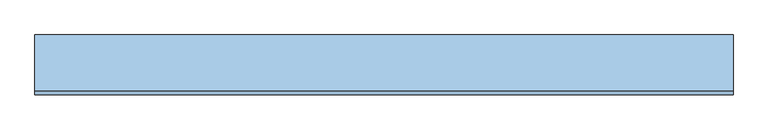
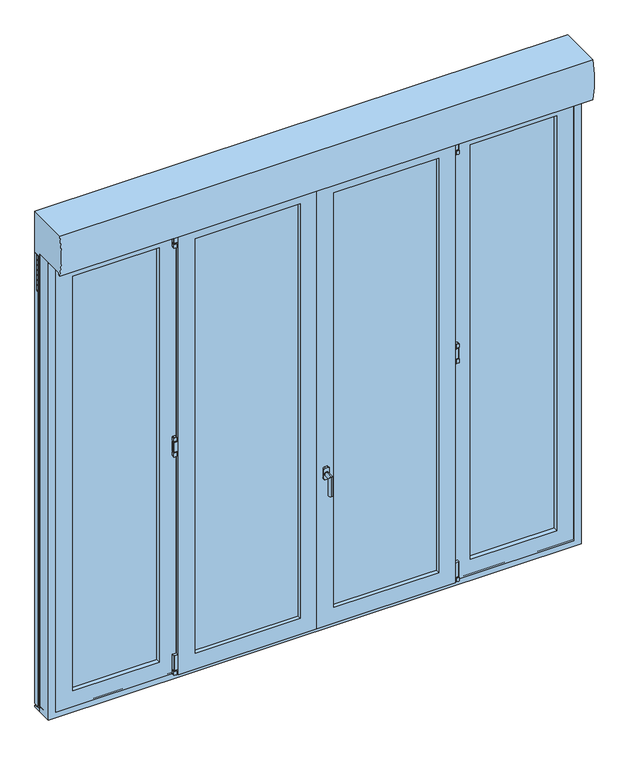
"""IFC4 building model written with IfcOpenShell, lengths in millimetres: window geometry, 26. PF2 + 2 Fixes à G et à D ENR PVC-ALU : 260X236 (LXH) cm."""

from ifc_helpers import new_model, si_unit, point, frame, frame_2d, origin, place, context, project, spatial, polyline, circle_curve, ellipse_curve, trimmed, segment, composite_curve, outline, extrude, faceted_brep, source, transform, mapped, element, save
from ifc_brep_helpers import plane_surface, cylinder_surface, advanced_brep


def window_d9ff698f(model_context):
    return source(origin(), model_context, "Body", "SolidModel", [
        extrude(outline(composite_curve([segment(polyline([(1233.7215382, -681.004), (1251.7538628, -681.004)]), True, "CONTINUOUS"), segment(trimmed(circle_curve(frame_2d((1251.7538628, -682.9716754)), 1.9676754), [point((1251.7538628, -681.004))], [point((1253.7215382, -682.9716754))], False, "CARTESIAN"), True, "CONTINUOUS"), segment(polyline([(1253.7215382, -682.9716754), (1253.7215382, -694.0103831)]), True, "CONTINUOUS"), segment(trimmed(circle_curve(frame_2d((1251.7279213, -694.0103831)), 1.9936169), [point((1253.7215382, -694.0103831))], [point((1251.7279213, -696.004))], False, "CARTESIAN"), True, "CONTINUOUS"), segment(polyline([(1251.7279213, -696.004), (1233.7215382, -696.004), (1233.7215382, -681.004)]), True, "CONTINUOUS")], self_intersect=False)), frame((0.0, -115.0338923, 0.0), z_axis=(0.0, 1.0, 0.0), x_axis=(0.0, 0.0, 1.0)), (0.0, 0.0, 1.0), 15.0),
        extrude(outline(composite_curve([segment(trimmed(circle_curve(frame_2d((-688.7245562, -107.5434807)), 5.0), [point((-683.7245562, -107.5434807))], [point((-693.7245562, -107.5434807))], False, "CARTESIAN"), True, "CONTINUOUS"), segment(trimmed(circle_curve(frame_2d((-688.7245562, -107.5434807)), 5.0), [point((-693.7245562, -107.5434807))], [point((-683.7245562, -107.5434807))], False, "CARTESIAN"), True, "CONTINUOUS")], self_intersect=False)), frame((0.0, 0.0, 1173.7215382), z_axis=(0.0, 0.0, 1.0), x_axis=(1.0, 0.0, 0.0)), (0.0, 0.0, 1.0), 60.0),
        extrude(outline(composite_curve([segment(polyline([(-676.004, -100.0434807), (-676.004, -115.0434807), (-693.9858225, -115.0434807)]), True, "CONTINUOUS"), segment(trimmed(circle_curve(frame_2d((-693.9858225, -113.0253033)), 2.0181775), [point((-693.9858225, -115.0434807))], [point((-696.004, -113.0253033))], False, "CARTESIAN"), True, "CONTINUOUS"), segment(polyline([(-696.004, -113.0253033), (-696.004, -102.001657)]), True, "CONTINUOUS"), segment(trimmed(circle_curve(frame_2d((-694.0458237, -102.001657)), 1.9581763), [point((-696.004, -102.001657))], [point((-694.0458237, -100.0434807))], False, "CARTESIAN"), True, "CONTINUOUS"), segment(polyline([(-694.0458237, -100.0434807), (-676.004, -100.0434807)]), True, "CONTINUOUS")], self_intersect=False)), frame((0.0, 0.0, 1179.448), z_axis=(0.0, 0.0, 1.0), x_axis=(1.0, 0.0, 0.0)), (0.0, 0.0, 1.0), 50.0),
        extrude(outline(composite_curve([segment(polyline([(1174.448, -696.2245562), (1156.0982054, -696.2245562)]), True, "CONTINUOUS"), segment(trimmed(circle_curve(frame_2d((1156.4216694, -694.2508867)), 2.0), [point((1156.0982054, -696.2245562))], [point((1154.448, -694.5743507))], False, "CARTESIAN"), True, "CONTINUOUS"), segment(polyline([(1154.448, -694.5743507), (1154.448, -683.2338059)]), True, "CONTINUOUS"), segment(trimmed(circle_curve(frame_2d((1156.4572498, -683.2338059)), 2.0092498), [point((1154.448, -683.2338059))], [point((1156.4572498, -681.2245562))], False, "CARTESIAN"), True, "CONTINUOUS"), segment(polyline([(1156.4572498, -681.2245562), (1174.448, -681.2245562), (1174.448, -696.2245562)]), True, "CONTINUOUS")], self_intersect=False)), frame((0.0, -115.0338923, 0.0), z_axis=(0.0, 1.0, 0.0), x_axis=(0.0, 0.0, 1.0)), (0.0, 0.0, 1.0), 15.0),
        extrude(outline(composite_curve([segment(polyline([(1233.7215382, 680.96), (1233.7215382, 695.96), (1251.7279213, 695.96)]), True, "CONTINUOUS"), segment(trimmed(circle_curve(frame_2d((1251.7279213, 693.9663831)), 1.9936169), [point((1251.7279213, 695.96))], [point((1253.7215382, 693.9663831))], False, "CARTESIAN"), True, "CONTINUOUS"), segment(polyline([(1253.7215382, 693.9663831), (1253.7215382, 682.9276754)]), True, "CONTINUOUS"), segment(trimmed(circle_curve(frame_2d((1251.7538628, 682.9276754)), 1.9676754), [point((1253.7215382, 682.9276754))], [point((1251.7538628, 680.96))], False, "CARTESIAN"), True, "CONTINUOUS"), segment(polyline([(1251.7538628, 680.96), (1233.7215382, 680.96)]), True, "CONTINUOUS")], self_intersect=False)), frame((0.0, -115.0338923, 0.0), z_axis=(0.0, 1.0, 0.0), x_axis=(0.0, 0.0, 1.0)), (0.0, 0.0, 1.0), 15.0),
        extrude(outline(composite_curve([segment(trimmed(circle_curve(frame_2d((688.6805562, -107.5434807)), 5.0), [point((683.6805562, -107.5434807))], [point((693.6805562, -107.5434807))], False, "CARTESIAN"), True, "CONTINUOUS"), segment(trimmed(circle_curve(frame_2d((688.6805562, -107.5434807)), 5.0), [point((693.6805562, -107.5434807))], [point((683.6805562, -107.5434807))], False, "CARTESIAN"), True, "CONTINUOUS")], self_intersect=False)), frame((0.0, 0.0, 1173.7215382), z_axis=(0.0, 0.0, 1.0), x_axis=(1.0, 0.0, 0.0)), (0.0, 0.0, 1.0), 60.0),
        extrude(outline(composite_curve([segment(polyline([(675.96, -100.0434807), (694.0018237, -100.0434807)]), True, "CONTINUOUS"), segment(trimmed(circle_curve(frame_2d((694.0018237, -102.001657)), 1.9581763), [point((694.0018237, -100.0434807))], [point((695.96, -102.001657))], False, "CARTESIAN"), True, "CONTINUOUS"), segment(polyline([(695.96, -102.001657), (695.96, -113.0253033)]), True, "CONTINUOUS"), segment(trimmed(circle_curve(frame_2d((693.9418225, -113.0253033)), 2.0181775), [point((695.96, -113.0253033))], [point((693.9418225, -115.0434807))], False, "CARTESIAN"), True, "CONTINUOUS"), segment(polyline([(693.9418225, -115.0434807), (675.96, -115.0434807), (675.96, -100.0434807)]), True, "CONTINUOUS")], self_intersect=False)), frame((0.0, 0.0, 1179.448), z_axis=(0.0, 0.0, 1.0), x_axis=(1.0, 0.0, 0.0)), (0.0, 0.0, 1.0), 50.0),
        extrude(outline(composite_curve([segment(polyline([(1174.448, 696.1805562), (1174.448, 681.1805562), (1156.4572498, 681.1805562)]), True, "CONTINUOUS"), segment(trimmed(circle_curve(frame_2d((1156.4572498, 683.1898059)), 2.0092498), [point((1156.4572498, 681.1805562))], [point((1154.448, 683.1898059))], False, "CARTESIAN"), True, "CONTINUOUS"), segment(polyline([(1154.448, 683.1898059), (1154.448, 694.5303507)]), True, "CONTINUOUS"), segment(trimmed(circle_curve(frame_2d((1156.4216694, 694.2068867)), 2.0), [point((1154.448, 694.5303507))], [point((1156.0982054, 696.1805562))], False, "CARTESIAN"), True, "CONTINUOUS"), segment(polyline([(1156.0982054, 696.1805562), (1174.448, 696.1805562)]), True, "CONTINUOUS")], self_intersect=False)), frame((0.0, -115.0338923, 0.0), z_axis=(0.0, 1.0, 0.0), x_axis=(0.0, 0.0, 1.0)), (0.0, 0.0, 1.0), 15.0),
        extrude(outline(composite_curve([segment(polyline([(2310.8255382, -680.96), (2328.8578628, -680.96)]), True, "CONTINUOUS"), segment(trimmed(circle_curve(frame_2d((2328.8578628, -682.9276754)), 1.9676754), [point((2328.8578628, -680.96))], [point((2330.8255382, -682.9276754))], False, "CARTESIAN"), True, "CONTINUOUS"), segment(polyline([(2330.8255382, -682.9276754), (2330.8255382, -693.9663831)]), True, "CONTINUOUS"), segment(trimmed(circle_curve(frame_2d((2328.8319213, -693.9663831)), 1.9936169), [point((2330.8255382, -693.9663831))], [point((2328.8319213, -695.96))], False, "CARTESIAN"), True, "CONTINUOUS"), segment(polyline([(2328.8319213, -695.96), (2310.8255382, -695.96), (2310.8255382, -680.96)]), True, "CONTINUOUS")], self_intersect=False)), frame((0.0, -115.0338923, 0.0), z_axis=(0.0, 1.0, 0.0), x_axis=(0.0, 0.0, 1.0)), (0.0, 0.0, 1.0), 15.0),
        extrude(outline(composite_curve([segment(trimmed(circle_curve(frame_2d((-688.6805562, -107.5434807)), 5.0), [point((-683.6805562, -107.5434807))], [point((-693.6805562, -107.5434807))], False, "CARTESIAN"), True, "CONTINUOUS"), segment(trimmed(circle_curve(frame_2d((-688.6805562, -107.5434807)), 5.0), [point((-693.6805562, -107.5434807))], [point((-683.6805562, -107.5434807))], False, "CARTESIAN"), True, "CONTINUOUS")], self_intersect=False)), frame((0.0, 0.0, 2250.8255382), z_axis=(0.0, 0.0, 1.0), x_axis=(1.0, 0.0, 0.0)), (0.0, 0.0, 1.0), 60.0),
        extrude(outline(composite_curve([segment(polyline([(-675.96, -100.0434807), (-675.96, -115.0434807), (-693.9418225, -115.0434807)]), True, "CONTINUOUS"), segment(trimmed(circle_curve(frame_2d((-693.9418225, -113.0253033)), 2.0181775), [point((-693.9418225, -115.0434807))], [point((-695.96, -113.0253033))], False, "CARTESIAN"), True, "CONTINUOUS"), segment(polyline([(-695.96, -113.0253033), (-695.96, -102.001657)]), True, "CONTINUOUS"), segment(trimmed(circle_curve(frame_2d((-694.0018237, -102.001657)), 1.9581763), [point((-695.96, -102.001657))], [point((-694.0018237, -100.0434807))], False, "CARTESIAN"), True, "CONTINUOUS"), segment(polyline([(-694.0018237, -100.0434807), (-675.96, -100.0434807)]), True, "CONTINUOUS")], self_intersect=False)), frame((0.0, 0.0, 2256.552), z_axis=(0.0, 0.0, 1.0), x_axis=(1.0, 0.0, 0.0)), (0.0, 0.0, 1.0), 50.0),
        extrude(outline(composite_curve([segment(polyline([(2251.552, -696.1805562), (2233.2022054, -696.1805562)]), True, "CONTINUOUS"), segment(trimmed(circle_curve(frame_2d((2233.5256694, -694.2068867)), 2.0), [point((2233.2022054, -696.1805562))], [point((2231.552, -694.5303507))], False, "CARTESIAN"), True, "CONTINUOUS"), segment(polyline([(2231.552, -694.5303507), (2231.552, -683.1898059)]), True, "CONTINUOUS"), segment(trimmed(circle_curve(frame_2d((2233.5612498, -683.1898059)), 2.0092498), [point((2231.552, -683.1898059))], [point((2233.5612498, -681.1805562))], False, "CARTESIAN"), True, "CONTINUOUS"), segment(polyline([(2233.5612498, -681.1805562), (2251.552, -681.1805562), (2251.552, -696.1805562)]), True, "CONTINUOUS")], self_intersect=False)), frame((0.0, -115.0338923, 0.0), z_axis=(0.0, 1.0, 0.0), x_axis=(0.0, 0.0, 1.0)), (0.0, 0.0, 1.0), 15.0),
        extrude(outline(composite_curve([segment(trimmed(circle_curve(frame_2d((-688.5702781, -107.5434807)), 5.0), [point((-683.5702781, -107.5434807))], [point((-693.5702781, -107.5434807))], False, "CARTESIAN"), True, "CONTINUOUS"), segment(trimmed(circle_curve(frame_2d((-688.5702781, -107.5434807)), 5.0), [point((-693.5702781, -107.5434807))], [point((-683.5702781, -107.5434807))], False, "CARTESIAN"), True, "CONTINUOUS")], self_intersect=False)), frame((0.0, 0.0, 48.448), z_axis=(0.0, 0.0, 1.0), x_axis=(1.0, 0.0, 0.0)), (0.0, 0.0, 1.0), 5.0),
        extrude(outline(composite_curve([segment(polyline([(48.448, -696.0702781), (30.0982054, -696.0702781)]), True, "CONTINUOUS"), segment(trimmed(circle_curve(frame_2d((30.4216694, -694.0966086)), 2.0), [point((30.0982054, -696.0702781))], [point((28.448, -694.4200727))], False, "CARTESIAN"), True, "CONTINUOUS"), segment(polyline([(28.448, -694.4200727), (28.448, -683.0795279)]), True, "CONTINUOUS"), segment(trimmed(circle_curve(frame_2d((30.4572498, -683.0795279)), 2.0092498), [point((28.448, -683.0795279))], [point((30.4572498, -681.0702781))], False, "CARTESIAN"), True, "CONTINUOUS"), segment(polyline([(30.4572498, -681.0702781), (48.448, -681.0702781), (48.448, -696.0702781)]), True, "CONTINUOUS")], self_intersect=False)), frame((0.0, -115.0338923, 0.0), z_axis=(0.0, 1.0, 0.0), x_axis=(0.0, 0.0, 1.0)), (0.0, 0.0, 1.0), 15.0),
        extrude(outline(composite_curve([segment(polyline([(-675.8497219, -100.0434807), (-675.8497219, -115.0434807), (-693.8315445, -115.0434807)]), True, "CONTINUOUS"), segment(trimmed(circle_curve(frame_2d((-693.8315445, -113.0253033)), 2.0181775), [point((-693.8315445, -115.0434807))], [point((-695.8497219, -113.0253033))], False, "CARTESIAN"), True, "CONTINUOUS"), segment(polyline([(-695.8497219, -113.0253033), (-695.8497219, -102.001657)]), True, "CONTINUOUS"), segment(trimmed(circle_curve(frame_2d((-693.8915456, -102.001657)), 1.9581763), [point((-695.8497219, -102.001657))], [point((-693.8915456, -100.0434807))], False, "CARTESIAN"), True, "CONTINUOUS"), segment(polyline([(-693.8915456, -100.0434807), (-675.8497219, -100.0434807)]), True, "CONTINUOUS")], self_intersect=False)), frame((0.0, 0.0, 53.448), z_axis=(0.0, 0.0, 1.0), x_axis=(1.0, 0.0, 0.0)), (0.0, 0.0, 1.0), 75.0),
        extrude(outline(composite_curve([segment(polyline([(2310.8255382, 680.96), (2310.8255382, 695.96), (2328.8319213, 695.96)]), True, "CONTINUOUS"), segment(trimmed(circle_curve(frame_2d((2328.8319213, 693.9663831)), 1.9936169), [point((2328.8319213, 695.96))], [point((2330.8255382, 693.9663831))], False, "CARTESIAN"), True, "CONTINUOUS"), segment(polyline([(2330.8255382, 693.9663831), (2330.8255382, 682.9276754)]), True, "CONTINUOUS"), segment(trimmed(circle_curve(frame_2d((2328.8578628, 682.9276754)), 1.9676754), [point((2330.8255382, 682.9276754))], [point((2328.8578628, 680.96))], False, "CARTESIAN"), True, "CONTINUOUS"), segment(polyline([(2328.8578628, 680.96), (2310.8255382, 680.96)]), True, "CONTINUOUS")], self_intersect=False)), frame((0.0, -115.0338923, 0.0), z_axis=(0.0, 1.0, 0.0), x_axis=(0.0, 0.0, 1.0)), (0.0, 0.0, 1.0), 15.0),
        extrude(outline(composite_curve([segment(trimmed(circle_curve(frame_2d((688.6805562, -107.5434807)), 5.0), [point((683.6805562, -107.5434807))], [point((693.6805562, -107.5434807))], False, "CARTESIAN"), True, "CONTINUOUS"), segment(trimmed(circle_curve(frame_2d((688.6805562, -107.5434807)), 5.0), [point((693.6805562, -107.5434807))], [point((683.6805562, -107.5434807))], False, "CARTESIAN"), True, "CONTINUOUS")], self_intersect=False)), frame((0.0, 0.0, 2250.8255382), z_axis=(0.0, 0.0, 1.0), x_axis=(1.0, 0.0, 0.0)), (0.0, 0.0, 1.0), 60.0),
        extrude(outline(composite_curve([segment(polyline([(675.96, -100.0434807), (694.0018237, -100.0434807)]), True, "CONTINUOUS"), segment(trimmed(circle_curve(frame_2d((694.0018237, -102.001657)), 1.9581763), [point((694.0018237, -100.0434807))], [point((695.96, -102.001657))], False, "CARTESIAN"), True, "CONTINUOUS"), segment(polyline([(695.96, -102.001657), (695.96, -113.0253033)]), True, "CONTINUOUS"), segment(trimmed(circle_curve(frame_2d((693.9418225, -113.0253033)), 2.0181775), [point((695.96, -113.0253033))], [point((693.9418225, -115.0434807))], False, "CARTESIAN"), True, "CONTINUOUS"), segment(polyline([(693.9418225, -115.0434807), (675.96, -115.0434807), (675.96, -100.0434807)]), True, "CONTINUOUS")], self_intersect=False)), frame((0.0, 0.0, 2256.552), z_axis=(0.0, 0.0, 1.0), x_axis=(1.0, 0.0, 0.0)), (0.0, 0.0, 1.0), 50.0),
        extrude(outline(composite_curve([segment(polyline([(2251.552, 696.1805562), (2251.552, 681.1805562), (2233.5612498, 681.1805562)]), True, "CONTINUOUS"), segment(trimmed(circle_curve(frame_2d((2233.5612498, 683.1898059)), 2.0092498), [point((2233.5612498, 681.1805562))], [point((2231.552, 683.1898059))], False, "CARTESIAN"), True, "CONTINUOUS"), segment(polyline([(2231.552, 683.1898059), (2231.552, 694.5303507)]), True, "CONTINUOUS"), segment(trimmed(circle_curve(frame_2d((2233.5256694, 694.2068867)), 2.0), [point((2231.552, 694.5303507))], [point((2233.2022054, 696.1805562))], False, "CARTESIAN"), True, "CONTINUOUS"), segment(polyline([(2233.2022054, 696.1805562), (2251.552, 696.1805562)]), True, "CONTINUOUS")], self_intersect=False)), frame((0.0, -115.0338923, 0.0), z_axis=(0.0, 1.0, 0.0), x_axis=(0.0, 0.0, 1.0)), (0.0, 0.0, 1.0), 15.0),
        extrude(outline(composite_curve([segment(trimmed(circle_curve(frame_2d((688.6805562, -107.5434807)), 5.0), [point((683.6805562, -107.5434807))], [point((693.6805562, -107.5434807))], False, "CARTESIAN"), True, "CONTINUOUS"), segment(trimmed(circle_curve(frame_2d((688.6805562, -107.5434807)), 5.0), [point((693.6805562, -107.5434807))], [point((683.6805562, -107.5434807))], False, "CARTESIAN"), True, "CONTINUOUS")], self_intersect=False)), frame((0.0, 0.0, 48.448), z_axis=(0.0, 0.0, 1.0), x_axis=(1.0, 0.0, 0.0)), (0.0, 0.0, 1.0), 5.0),
        extrude(outline(composite_curve([segment(polyline([(48.448, 696.1805562), (48.448, 681.1805562), (30.4572498, 681.1805562)]), True, "CONTINUOUS"), segment(trimmed(circle_curve(frame_2d((30.4572498, 683.1898059)), 2.0092498), [point((30.4572498, 681.1805562))], [point((28.448, 683.1898059))], False, "CARTESIAN"), True, "CONTINUOUS"), segment(polyline([(28.448, 683.1898059), (28.448, 694.5303507)]), True, "CONTINUOUS"), segment(trimmed(circle_curve(frame_2d((30.4216694, 694.2068867)), 2.0), [point((28.448, 694.5303507))], [point((30.0982054, 696.1805562))], False, "CARTESIAN"), True, "CONTINUOUS"), segment(polyline([(30.0982054, 696.1805562), (48.448, 696.1805562)]), True, "CONTINUOUS")], self_intersect=False)), frame((0.0, -115.0338923, 0.0), z_axis=(0.0, 1.0, 0.0), x_axis=(0.0, 0.0, 1.0)), (0.0, 0.0, 1.0), 15.0),
        extrude(outline(composite_curve([segment(polyline([(675.96, -100.0434807), (694.0018237, -100.0434807)]), True, "CONTINUOUS"), segment(trimmed(circle_curve(frame_2d((694.0018237, -102.001657)), 1.9581763), [point((694.0018237, -100.0434807))], [point((695.96, -102.001657))], False, "CARTESIAN"), True, "CONTINUOUS"), segment(polyline([(695.96, -102.001657), (695.96, -113.0253033)]), True, "CONTINUOUS"), segment(trimmed(circle_curve(frame_2d((693.9418225, -113.0253033)), 2.0181775), [point((695.96, -113.0253033))], [point((693.9418225, -115.0434807))], False, "CARTESIAN"), True, "CONTINUOUS"), segment(polyline([(693.9418225, -115.0434807), (675.96, -115.0434807), (675.96, -100.0434807)]), True, "CONTINUOUS")], self_intersect=False)), frame((0.0, 0.0, 53.448), z_axis=(0.0, 0.0, 1.0), x_axis=(1.0, 0.0, 0.0)), (0.0, 0.0, 1.0), 75.0),
        advanced_brep(
        [(48.496, -129.3239543, 851.448), (33.496, -129.3239543, 851.448), (28.496, -129.3239543, 846.448), (28.496, -129.3239543, 796.448), (33.496, -129.3239543, 791.448), (48.496, -129.3239543, 791.448), (53.496, -129.3239543, 796.448), (53.496, -129.3239543, 846.448), (41.2731873, -129.3239543, 829.2518349), (41.2731873, -129.3239543, 809.2518349), (48.496, -117.4674689, 851.448), (53.496, -117.4674689, 846.448), (53.496, -117.4674689, 796.448), (48.496, -117.4674689, 791.448), (33.496, -117.4674689, 791.448), (28.496, -117.4674689, 796.448), (28.496, -117.4674689, 846.448), (33.496, -117.4674689, 851.448), (41.2731873, -133.0531938, 809.2518349), (41.2731873, -133.0531938, 829.2518349), (41.2731873, -173.0531938, 829.2518349), (41.2731873, -153.0531938, 809.2518349), (41.2731873, -173.0531938, 729.2518349), (41.2731873, -153.0531938, 729.2518349)],
        [
            (0, 1),
            (1, 2, circle_curve(frame((33.496, -129.3239543, 846.448), z_axis=(0.0, -1.0, 0.0), x_axis=(-1.0, 0.0, 0.0)), 5.0)),
            (2, 3),
            (3, 4, circle_curve(frame((33.496, -129.3239543, 796.448), z_axis=(0.0, -1.0, 0.0), x_axis=(-1.0, 0.0, 0.0)), 5.0)),
            (4, 5),
            (5, 6, circle_curve(frame((48.496, -129.3239543, 796.448), z_axis=(0.0, -1.0, 0.0), x_axis=(-1.0, 0.0, 0.0)), 5.0)),
            (6, 7),
            (7, 0, circle_curve(frame((48.496, -129.3239543, 846.448), z_axis=(0.0, -1.0, 0.0), x_axis=(-1.0, 0.0, 0.0)), 5.0)),
            (8, 9, circle_curve(frame((41.2731873, -129.3239543, 819.2518349), z_axis=(0.0, 1.0, 0.0), x_axis=(0.0, 0.0, -1.0)), 10.0)),
            (9, 8, circle_curve(frame((41.2731873, -129.3239543, 819.2518349), z_axis=(0.0, 1.0, 0.0), x_axis=(0.0, 0.0, -1.0)), 10.0)),
            (10, 11, circle_curve(frame((48.496, -117.4674689, 846.448), z_axis=(0.0, 1.0, 0.0), x_axis=(-1.0, 0.0, 0.0)), 5.0)),
            (11, 12),
            (12, 13, circle_curve(frame((48.496, -117.4674689, 796.448), z_axis=(0.0, 1.0, 0.0), x_axis=(-1.0, 0.0, 0.0)), 5.0)),
            (13, 14),
            (14, 15, circle_curve(frame((33.496, -117.4674689, 796.448), z_axis=(0.0, 1.0, 0.0), x_axis=(-1.0, 0.0, 0.0)), 5.0)),
            (15, 16),
            (16, 17, circle_curve(frame((33.496, -117.4674689, 846.448), z_axis=(0.0, 1.0, 0.0), x_axis=(-1.0, 0.0, 0.0)), 5.0)),
            (17, 10),
            (7, 11),
            (10, 0),
            (6, 12),
            (5, 13),
            (4, 14),
            (3, 15),
            (2, 16),
            (1, 17),
            (18, 19, circle_curve(frame((41.2731873, -133.0531938, 819.2518349), z_axis=(0.0, -1.0, 0.0), x_axis=(0.0, 0.0, -1.0)), 10.0)),
            (19, 20),
            (20, 21, ellipse_curve(frame((41.2731873, -163.0531938, 819.2518349), z_axis=(0.0, 0.7071067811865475, 0.7071067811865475), x_axis=(0.0, 0.7071067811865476, -0.7071067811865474)), 14.1421356, 10.0)),
            (21, 18),
            (19, 18, circle_curve(frame((41.2731873, -133.0531938, 819.2518349), z_axis=(0.0, -1.0, 0.0), x_axis=(0.0, 0.0, -1.0)), 10.0)),
            (21, 20, ellipse_curve(frame((41.2731873, -163.0531938, 819.2518349), z_axis=(0.0, 0.7071067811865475, 0.7071067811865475), x_axis=(0.0, 0.7071067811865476, -0.7071067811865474)), 14.1421356, 10.0)),
            (22, 23, circle_curve(frame((41.2731873, -163.0531938, 729.2518349), z_axis=(0.0, 0.0, -1.0), x_axis=(0.0, 1.0, 0.0)), 10.0)),
            (23, 22, circle_curve(frame((41.2731873, -163.0531938, 729.2518349), z_axis=(0.0, 0.0, -1.0), x_axis=(0.0, 1.0, 0.0)), 10.0)),
            (20, 22),
            (23, 21),
            (18, 9),
            (8, 19),
        ],
        [
            plane_surface(frame((43.496, -129.3239543, 846.448), z_axis=(0.0, -1.0, 0.0), x_axis=(0.0, 0.0, -1.0))),
            plane_surface(frame((43.496, -117.4674689, 846.448), z_axis=(0.0, 1.0, 0.0), x_axis=(0.0, 0.0, 1.0))),
            cylinder_surface(frame((48.496, -129.3239543, 846.448), z_axis=(0.0, 1.0, 0.0), x_axis=(-1.0, 0.0, 0.0)), 5.0),
            plane_surface(frame((53.496, -117.4674689, 846.448), z_axis=(1.0, 0.0, 0.0), x_axis=(0.0, -1.0, 0.0))),
            cylinder_surface(frame((48.496, -129.3239543, 796.448), z_axis=(0.0, 1.0, 0.0), x_axis=(-1.0, 0.0, 0.0)), 5.0),
            plane_surface(frame((48.496, -117.4674689, 791.448), z_axis=(0.0, 0.0, -1.0), x_axis=(0.0, -1.0, 0.0))),
            cylinder_surface(frame((33.496, -129.3239543, 796.448), z_axis=(0.0, 1.0, 0.0), x_axis=(-1.0, 0.0, 0.0)), 5.0),
            plane_surface(frame((28.496, -117.4674689, 796.448), z_axis=(-1.0, 0.0, 0.0), x_axis=(0.0, -1.0, 0.0))),
            cylinder_surface(frame((33.496, -129.3239543, 846.448), z_axis=(0.0, 1.0, 0.0), x_axis=(-1.0, 0.0, 0.0)), 5.0),
            plane_surface(frame((33.496, -117.4674689, 851.448), z_axis=(0.0, 0.0, 1.0), x_axis=(0.0, -1.0, 0.0))),
            cylinder_surface(frame((41.2731873, -133.0531938, 819.2518349), z_axis=(0.0, 1.0, 0.0), x_axis=(0.0, 0.0, -1.0)), 10.0),
            plane_surface(frame((53.496, -163.0531938, 729.2518349), z_axis=(0.0, 0.0, -1.0), x_axis=(1.0, 0.0, 0.0))),
            cylinder_surface(frame((41.2731873, -163.0531938, 819.2518349), z_axis=(0.0, 0.0, 1.0), x_axis=(0.0, 1.0, 0.0)), 10.0),
            cylinder_surface(frame((41.2731873, -129.3239543, 819.2518349), z_axis=(0.0, 1.0, 0.0), x_axis=(0.0, 0.0, -1.0)), 10.0),
        ],
        [
            (0, [[1, 2, 3, 4, 5, 6, 7, 8], [9, 10]]),
            (1, [[11, 12, 13, 14, 15, 16, 17, 18]]),
            (2, [[-8, 19, -11, 20]]),
            (3, [[-7, 21, -12, -19]]),
            (4, [[-6, 22, -13, -21]]),
            (5, [[-5, 23, -14, -22]]),
            (6, [[-4, 24, -15, -23]]),
            (7, [[-3, 25, -16, -24]]),
            (8, [[-2, 26, -17, -25]]),
            (9, [[-1, -20, -18, -26]]),
            (10, [[27, 28, 29, 30]]),
            (10, [[-28, 31, -30, 32]]),
            (11, [[33, 34]]),
            (12, [[-29, 35, -34, 36]]),
            (12, [[-32, -36, -33, -35]]),
            (13, [[-27, 37, -9, 38]]),
            (13, [[-31, -38, -10, -37]]),
        ],
    ),
        faceted_brep([(-1300.0, -100.02, 2360.0), (-1300.0, -28.9, 2360.0), (-1300.0, -28.9, 0.0), (-1300.0, -100.02, 0.0), (1300.0, -28.9, 2360.0), (1300.0, -28.9, 0.0), (-1242.0983858, -28.9, 57.9016142), (1242.0983858, -28.9, 57.9016142), (1242.0983858, -28.9, 2302.0983858), (-1242.0983858, -28.9, 2302.0983858), (1300.0, -100.02, 0.0), (1300.0, -100.02, 2360.0), (-1263.424, -100.02, 2323.424), (1263.424, -100.02, 2323.424), (1263.424, -100.02, 36.576), (-1263.424, -100.02, 36.576), (-1263.424, -44.648, 2323.424), (-1263.424, -44.648, 36.576), (1263.424, -44.648, 36.576), (1263.424, -44.648, 2323.424), (-1242.0983858, -44.648, 2302.0983858), (1242.0983858, -44.648, 2302.0983858), (1242.0983858, -44.648, 57.9016142), (-1242.0983858, -44.648, 57.9016142)], [[[0, 1, 2, 3]], [[1, 4, 5, 2], [6, 7, 8, 9]], [[3, 2, 5, 10]], [[3, 10, 11, 0], [12, 13, 14, 15]], [[16, 12, 15, 17]], [[17, 15, 14, 18]], [[17, 18, 19, 16], [20, 21, 22, 23]], [[9, 20, 23, 6]], [[6, 23, 22, 7]], [[10, 5, 4, 11]], [[18, 14, 13, 19]], [[7, 22, 21, 8]], [[11, 4, 1, 0]], [[19, 13, 12, 16]], [[8, 21, 20, 9]]]),
        faceted_brep([(705.4576142, -44.648, 2302.0983858), (705.4576142, -28.9, 2302.0983858), (705.4576142, -28.9, 57.9016142), (705.4576142, -44.648, 57.9016142), (1234.0063858, -28.9, 2302.0983858), (1234.0063858, -28.9, 57.9016142), (758.0319508, -28.9, 110.4759508), (1181.4320492, -28.9, 110.4759508), (1181.4320492, -28.9, 2249.5240492), (758.0319508, -28.9, 2249.5240492), (1234.0063858, -44.648, 57.9016142), (676.004, -44.648, 2331.552), (1263.46, -44.648, 2331.552), (1263.46, -44.648, 28.448), (676.004, -44.648, 28.448), (1234.0063858, -44.648, 2302.0983858), (758.0319508, -50.2048765, 110.4759508), (1181.4320492, -50.2048765, 110.4759508), (1181.4320492, -50.2048765, 2249.5240492), (758.0319508, -50.2048765, 2249.5240492), (1263.46, -100.963906, 28.448), (1263.46, -100.963906, 2331.552), (676.004, -100.963906, 28.448), (676.004, -100.963906, 2331.552), (758.0319508, -100.963906, 2249.5240492), (1181.4320492, -100.963906, 2249.5240492), (1181.4320492, -100.963906, 110.4759508), (758.0319508, -100.963906, 110.4759508), (1181.4320492, -78.213906, 110.4759508), (1181.4320492, -78.213906, 2249.5240492), (758.0319508, -78.213906, 110.4759508), (758.0319508, -78.213906, 2249.5240492), (744.1384883, -50.2048765, 96.5824883), (1195.3255117, -50.2048765, 96.5824883), (1195.3255117, -50.2048765, 2263.4175117), (744.1384883, -50.2048765, 2263.4175117), (744.1384883, -54.213906, 2263.4175117), (744.1384883, -54.213906, 96.5824883), (1195.3255117, -54.213906, 2263.4175117), (1195.3255117, -54.213906, 96.5824883), (758.0319508, -54.213906, 110.4759508), (1181.4320492, -54.213906, 110.4759508), (1181.4320492, -54.213906, 2249.5240492), (758.0319508, -54.213906, 2249.5240492), (744.1384883, -74.213906, 2263.4175117), (744.1384883, -78.213906, 2263.4175117), (744.1384883, -78.213906, 96.5824883), (744.1384883, -74.213906, 96.5824883), (1195.3255117, -78.213906, 2263.4175117), (1195.3255117, -78.213906, 96.5824883), (1195.3255117, -74.213906, 96.5824883), (1195.3255117, -74.213906, 2263.4175117), (758.0319508, -74.213906, 2249.5240492), (1181.4320492, -74.213906, 2249.5240492), (1181.4320492, -74.213906, 110.4759508), (758.0319508, -74.213906, 110.4759508)], [[[0, 1, 2, 3]], [[1, 4, 5, 2], [6, 7, 8, 9]], [[3, 2, 5, 10]], [[11, 12, 13, 14], [3, 10, 15, 0]], [[10, 5, 4, 15]], [[6, 16, 17, 7]], [[7, 17, 18, 8]], [[9, 19, 16, 6]], [[20, 13, 12, 21]], [[22, 14, 13, 20]], [[11, 14, 22, 23]], [[22, 20, 21, 23], [24, 25, 26, 27]], [[28, 26, 25, 29]], [[30, 27, 26, 28]], [[31, 24, 27, 30]], [[32, 33, 34, 35], [19, 18, 17, 16]], [[35, 36, 37, 32]], [[36, 38, 39, 37], [40, 41, 42, 43]], [[32, 37, 39, 33]], [[44, 45, 46, 47]], [[45, 48, 49, 46], [30, 28, 29, 31]], [[47, 46, 49, 50]], [[47, 50, 51, 44], [52, 53, 54, 55]], [[33, 39, 38, 34]], [[50, 49, 48, 51]], [[40, 55, 54, 41]], [[41, 54, 53, 42]], [[43, 52, 55, 40]], [[15, 4, 1, 0]], [[21, 12, 11, 23]], [[8, 18, 19, 9]], [[34, 38, 36, 35]], [[51, 48, 45, 44]], [[42, 53, 52, 43]], [[29, 25, 24, 31]]]),
        faceted_brep([(0.004, -119.3239543, 28.448), (0.004, -100.0434807, 28.448), (675.96, -100.0434807, 28.448), (675.96, -119.3239543, 28.448), (675.96, -100.0434807, 2331.552), (675.96, -119.3239543, 2331.552), (0.004, -100.0434807, 2331.552), (655.64, -100.0434807, 2311.232), (20.324, -100.0434807, 2311.232), (20.324, -100.0434807, 48.768), (655.64, -100.0434807, 48.768), (0.004, -119.3239543, 2331.552), (593.7585043, -119.3239543, 110.6494957), (82.2054957, -119.3239543, 110.6494957), (82.2054957, -119.3239543, 2249.3505043), (593.7585043, -119.3239543, 2249.3505043), (82.2054957, -100.019954, 110.6494957), (593.7585043, -100.019954, 110.6494957), (593.7585043, -100.019954, 2249.3505043), (616.0166701, -100.019954, 88.3913299), (59.9473299, -100.019954, 88.3913299), (59.9473299, -100.019954, 2271.6086701), (616.0166701, -100.019954, 2271.6086701), (82.2054957, -100.019954, 2249.3505043), (59.9473299, -48.2039543, 88.3913299), (616.0166701, -48.2039543, 88.3913299), (616.0166701, -48.2039543, 2271.6086701), (646.5063858, -48.2039543, 57.9016142), (29.4576142, -48.2039543, 57.9016142), (29.4576142, -48.2039543, 2302.0983858), (646.5063858, -48.2039543, 2302.0983858), (59.9473299, -48.2039543, 2271.6086701), (29.4576142, -44.648, 57.9016142), (646.5063858, -44.648, 57.9016142), (646.5063858, -44.648, 2302.0983858), (655.64, -44.648, 48.768), (20.324, -44.648, 48.768), (20.324, -44.648, 2311.232), (655.64, -44.648, 2311.232), (29.4576142, -44.648, 2302.0983858)], [[[0, 1, 2, 3]], [[3, 2, 4, 5]], [[2, 1, 6, 4], [7, 8, 9, 10]], [[5, 11, 0, 3], [12, 13, 14, 15]], [[16, 13, 12, 17]], [[17, 12, 15, 18]], [[19, 20, 21, 22], [18, 23, 16, 17]], [[24, 20, 19, 25]], [[25, 19, 22, 26]], [[27, 28, 29, 30], [26, 31, 24, 25]], [[32, 28, 27, 33]], [[33, 27, 30, 34]], [[35, 36, 37, 38], [34, 39, 32, 33]], [[9, 36, 35, 10]], [[10, 35, 38, 7]], [[11, 6, 1, 0]], [[23, 14, 13, 16]], [[31, 21, 20, 24]], [[39, 29, 28, 32]], [[8, 37, 36, 9]], [[5, 4, 6, 11]], [[34, 30, 29, 39]], [[7, 38, 37, 8]], [[18, 15, 14, 23]], [[26, 22, 21, 31]]]),
        extrude(outline(polyline([(-20.324, -100.0869615), (-20.324, -44.6914807), (-35.0085299, -44.6914807), (-35.0085299, -28.7910563), (34.9925299, -28.7910563), (34.9925299, -44.6914807), (20.316, -44.6914807), (20.316, -100.0869615), (-20.324, -100.0869615)])), frame((0.0, 0.0, 57.9016142), z_axis=(0.0, 0.0, 1.0), x_axis=(1.0, 0.0, 0.0)), (0.0, 0.0, 1.0), 2244.1),
        extrude(outline(polyline([(-640.9594701, -28.9434807), (-640.9594701, -44.6914807), (-655.64, -44.6914807), (-655.64, -100.0434807), (-675.94, -100.0434807), (-675.94, -44.6914807), (-705.44, -44.6914807), (-705.44, -28.9434807), (-640.9594701, -28.9434807)])), frame((0.0, 0.0, 57.9016142), z_axis=(0.0, 0.0, 1.0), x_axis=(1.0, 0.0, 0.0)), (0.0, 0.0, 1.0), 2244.1),
        extrude(outline(polyline([(640.9594701, -28.9434807), (705.44, -28.9434807), (705.44, -44.6914807), (675.94, -44.6914807), (675.94, -100.0434807), (655.64, -100.0434807), (655.64, -44.6914807), (640.9594701, -44.6914807), (640.9594701, -28.9434807)])), frame((0.0, 0.0, 57.9016142), z_axis=(0.0, 0.0, 1.0), x_axis=(1.0, 0.0, 0.0)), (0.0, 0.0, 1.0), 2244.1),
        faceted_brep([(-705.4576142, -28.9, 2302.0983858), (-705.4576142, -44.648, 2302.0983858), (-705.4576142, -44.648, 57.9016142), (-705.4576142, -28.9, 57.9016142), (-676.004, -44.648, 28.448), (-1263.46, -44.648, 28.448), (-1263.46, -44.648, 2331.552), (-676.004, -44.648, 2331.552), (-1234.0063858, -44.648, 2302.0983858), (-1234.0063858, -44.648, 57.9016142), (-1234.0063858, -28.9, 57.9016142), (-1234.0063858, -28.9, 2302.0983858), (-758.0319508, -28.9, 2249.5240492), (-1181.4320492, -28.9, 2249.5240492), (-1181.4320492, -28.9, 110.4759508), (-758.0319508, -28.9, 110.4759508), (-1181.4320492, -50.2048765, 110.4759508), (-1181.4320492, -50.2048765, 2249.5240492), (-758.0319508, -50.2048765, 110.4759508), (-758.0319508, -50.2048765, 2249.5240492), (-676.004, -100.963906, 28.448), (-1263.46, -100.963906, 28.448), (-1263.46, -100.963906, 2331.552), (-676.004, -100.963906, 2331.552), (-758.0319508, -100.963906, 110.4759508), (-1181.4320492, -100.963906, 110.4759508), (-1181.4320492, -100.963906, 2249.5240492), (-758.0319508, -100.963906, 2249.5240492), (-758.0319508, -78.213906, 110.4759508), (-1181.4320492, -78.213906, 110.4759508), (-1181.4320492, -78.213906, 2249.5240492), (-758.0319508, -78.213906, 2249.5240492), (-744.1384883, -50.2048765, 2263.4175117), (-1195.3255117, -50.2048765, 2263.4175117), (-1195.3255117, -50.2048765, 96.5824883), (-744.1384883, -50.2048765, 96.5824883), (-744.1384883, -54.213906, 2263.4175117), (-744.1384883, -54.213906, 96.5824883), (-1195.3255117, -54.213906, 96.5824883), (-1195.3255117, -54.213906, 2263.4175117), (-758.0319508, -54.213906, 2249.5240492), (-1181.4320492, -54.213906, 2249.5240492), (-1181.4320492, -54.213906, 110.4759508), (-758.0319508, -54.213906, 110.4759508), (-744.1384883, -78.213906, 2263.4175117), (-744.1384883, -74.213906, 2263.4175117), (-744.1384883, -74.213906, 96.5824883), (-744.1384883, -78.213906, 96.5824883), (-1195.3255117, -74.213906, 2263.4175117), (-1195.3255117, -74.213906, 96.5824883), (-758.0319508, -74.213906, 110.4759508), (-1181.4320492, -74.213906, 110.4759508), (-1181.4320492, -74.213906, 2249.5240492), (-758.0319508, -74.213906, 2249.5240492), (-1195.3255117, -78.213906, 96.5824883), (-1195.3255117, -78.213906, 2263.4175117)], [[[0, 1, 2, 3]], [[4, 5, 6, 7], [1, 8, 9, 2]], [[3, 2, 9, 10]], [[3, 10, 11, 0], [12, 13, 14, 15]], [[10, 9, 8, 11]], [[16, 14, 13, 17]], [[18, 15, 14, 16]], [[19, 12, 15, 18]], [[4, 20, 21, 5]], [[5, 21, 22, 6]], [[23, 20, 4, 7]], [[23, 22, 21, 20], [24, 25, 26, 27]], [[24, 28, 29, 25]], [[25, 29, 30, 26]], [[27, 31, 28, 24]], [[32, 33, 34, 35], [18, 16, 17, 19]], [[36, 32, 35, 37]], [[37, 35, 34, 38]], [[37, 38, 39, 36], [40, 41, 42, 43]], [[44, 45, 46, 47]], [[45, 48, 49, 46], [50, 51, 52, 53]], [[47, 46, 49, 54]], [[47, 54, 55, 44], [31, 30, 29, 28]], [[38, 34, 33, 39]], [[54, 49, 48, 55]], [[51, 42, 41, 52]], [[50, 43, 42, 51]], [[53, 40, 43, 50]], [[11, 8, 1, 0]], [[6, 22, 23, 7]], [[17, 13, 12, 19]], [[39, 33, 32, 36]], [[55, 48, 45, 44]], [[52, 41, 40, 53]], [[26, 30, 31, 27]]]),
        faceted_brep([(-0.004, -100.0434807, 28.448), (-0.004, -119.3239543, 28.448), (-675.96, -119.3239543, 28.448), (-675.96, -100.0434807, 28.448), (-675.96, -119.3239543, 2331.552), (-675.96, -100.0434807, 2331.552), (-0.004, -119.3239543, 2331.552), (-593.7585043, -119.3239543, 2249.3505043), (-82.2054957, -119.3239543, 2249.3505043), (-82.2054957, -119.3239543, 110.6494957), (-593.7585043, -119.3239543, 110.6494957), (-0.004, -100.0434807, 2331.552), (-655.64, -100.0434807, 48.768), (-20.324, -100.0434807, 48.768), (-20.324, -100.0434807, 2311.232), (-655.64, -100.0434807, 2311.232), (-82.2054957, -100.019954, 110.6494957), (-593.7585043, -100.019954, 110.6494957), (-593.7585043, -100.019954, 2249.3505043), (-616.0166701, -100.019954, 2271.6086701), (-59.9473299, -100.019954, 2271.6086701), (-59.9473299, -100.019954, 88.3913299), (-616.0166701, -100.019954, 88.3913299), (-82.2054957, -100.019954, 2249.3505043), (-59.9473299, -48.2039543, 88.3913299), (-616.0166701, -48.2039543, 88.3913299), (-616.0166701, -48.2039543, 2271.6086701), (-646.5063858, -48.2039543, 2302.0983858), (-29.4576142, -48.2039543, 2302.0983858), (-29.4576142, -48.2039543, 57.9016142), (-646.5063858, -48.2039543, 57.9016142), (-59.9473299, -48.2039543, 2271.6086701), (-29.4576142, -44.648, 57.9016142), (-646.5063858, -44.648, 57.9016142), (-646.5063858, -44.648, 2302.0983858), (-655.64, -44.648, 2311.232), (-20.324, -44.648, 2311.232), (-20.324, -44.648, 48.768), (-655.64, -44.648, 48.768), (-29.4576142, -44.648, 2302.0983858)], [[[0, 1, 2, 3]], [[3, 2, 4, 5]], [[2, 1, 6, 4], [7, 8, 9, 10]], [[5, 11, 0, 3], [12, 13, 14, 15]], [[9, 16, 17, 10]], [[10, 17, 18, 7]], [[19, 20, 21, 22], [17, 16, 23, 18]], [[21, 24, 25, 22]], [[22, 25, 26, 19]], [[27, 28, 29, 30], [25, 24, 31, 26]], [[29, 32, 33, 30]], [[30, 33, 34, 27]], [[35, 36, 37, 38], [33, 32, 39, 34]], [[37, 13, 12, 38]], [[38, 12, 15, 35]], [[11, 6, 1, 0]], [[8, 23, 16, 9]], [[20, 31, 24, 21]], [[28, 39, 32, 29]], [[36, 14, 13, 37]], [[5, 4, 6, 11]], [[27, 34, 39, 28]], [[35, 15, 14, 36]], [[7, 18, 23, 8]], [[19, 26, 31, 20]]]),
        extrude(outline(composite_curve([segment(polyline([(-186.3991192, 2350.3409737), (-197.3316724, 2350.3409737)]), True, "CONTINUOUS"), segment(trimmed(circle_curve(frame_2d((189.1050523, 2453.6204869)), 400.0), [point((-197.3316724, 2350.3409737))], [point((-197.3316724, 2556.9))], False, "CARTESIAN"), True, "CONTINUOUS"), segment(polyline([(-197.3316724, 2556.9), (13.0999994, 2556.9), (13.0999994, 2346.0216226), (-4.9499979, 2346.0216226), (-4.9499979, 2344.2216225), (-2.7215215, 2344.2216225), (-2.7215215, 2319.9791617), (-4.9499979, 2319.9791617), (-4.9499979, 2318.1791616), (-2.7215215, 2318.1791616), (-2.7215215, 2293.9367008), (-4.9499979, 2293.9367008), (-4.9499979, 2292.1367006), (-2.7215215, 2292.1367006), (-2.7215215, 2267.8942398), (-4.9499979, 2267.8942398), (-4.9499979, 2266.0942397), (-2.7215215, 2266.0942397), (-2.7215215, 2241.8517789), (-4.9499979, 2241.8517789), (-4.9499979, 2240.0517788), (-2.7215215, 2240.0517788), (-2.7215215, 2215.809318), (-4.9499979, 2215.809318), (-4.9499979, 2214.0093179), (-2.7215215, 2214.0093179), (-2.7215215, 2189.7668571), (-4.9499979, 2189.7668571), (-4.9499979, 2187.966857), (-2.7215215, 2187.966857), (-2.7215215, 2163.7243961), (-4.9499979, 2163.7243961), (-4.9499979, 2161.9243963), (-3.044091, 2161.9243963), (-3.044091, 2158.977424), (-6.4, 2155.6232688), (-9.8999992, 2158.9774251), (-9.8999992, 2161.9243963), (-7.7499979, 2161.9243963), (-7.7499979, 2163.7243961), (-9.9999979, 2163.7243961), (-9.9999979, 2187.9668572), (-7.7499979, 2187.9668572), (-7.7499979, 2189.7668571), (-9.9999979, 2189.7668571), (-9.9999979, 2214.0093181), (-7.7499979, 2214.0093181), (-7.7499979, 2215.809318), (-9.9999979, 2215.809318), (-9.9999979, 2240.051779), (-7.7499979, 2240.051779), (-7.7499979, 2241.8517789), (-9.9999979, 2241.8517789), (-9.9999979, 2266.09424), (-7.7499979, 2266.09424), (-7.7499979, 2267.8942398), (-9.9999979, 2267.8942398), (-9.9999979, 2292.1367009), (-7.7499979, 2292.1367009), (-7.7499979, 2293.9367008), (-9.9999979, 2293.9367008), (-9.9999979, 2318.1791618), (-7.7499979, 2318.1791618), (-7.7499979, 2319.9791617), (-9.9999979, 2319.9791617), (-9.9999979, 2344.2216227), (-7.7499979, 2344.2216227), (-7.7499979, 2346.0216226), (-28.9, 2346.0216226), (-28.9, 2360.0), (-186.3991192, 2360.0), (-186.3991192, 2350.3409737)]), True, "CONTINUOUS")], self_intersect=False)), frame((-1300.0, 0.0, 0.0), z_axis=(1.0, 0.0, 0.0), x_axis=(0.0, 1.0, 0.0)), (0.0, 0.0, 1.0), 2600.0),
        extrude(outline(polyline([(13.1, 0.0), (-100.02, 0.0), (-100.02, 30.0), (-28.9, 30.0), (-28.9, 20.0), (13.1, 10.0), (13.1, 0.0)])), frame((-1300.0, 0.0, 0.0), z_axis=(1.0, 0.0, 0.0), x_axis=(0.0, 1.0, 0.0)), (0.0, 0.0, 1.0), 2600.0),
        extrude(outline(polyline([(1299.0, 13.1), (1300.0, 13.1), (1300.0, -28.9), (1299.0, -28.9), (1299.0, -14.9), (1279.0, -14.9), (1279.0, -11.9), (1299.0, -11.9), (1299.0, -0.9), (1279.0, -0.9), (1279.0, 2.1), (1299.0, 2.1), (1299.0, 13.1)])), frame((0.0, 0.0, 20.0), z_axis=(0.0, 0.0, 1.0), x_axis=(1.0, 0.0, 0.0)), (0.0, 0.0, 1.0), 2326.0216226),
        extrude(outline(polyline([(-1299.0, 13.1), (-1299.0, 2.1), (-1279.0, 2.1), (-1279.0, -0.9), (-1299.0, -0.9), (-1299.0, -11.9), (-1279.0, -11.9), (-1279.0, -14.9), (-1299.0, -14.9), (-1299.0, -28.9), (-1300.0, -28.9), (-1300.0, 13.1), (-1299.0, 13.1)])), frame((0.0, 0.0, 20.0), z_axis=(0.0, 0.0, 1.0), x_axis=(1.0, 0.0, 0.0)), (0.0, 0.0, 1.0), 2326.0216226),
        extrude(outline(polyline([(1195.25, -50.2048765), (1195.25, -54.213906), (707.45, -54.213906), (707.45, -50.2048765), (1195.25, -50.2048765)])), frame((0.0, 0.0, 96.5824883), z_axis=(0.0, 0.0, 1.0), x_axis=(1.0, 0.0, 0.0)), (0.0, 0.0, 1.0), 2166.8350233),
        extrude(outline(polyline([(1195.25, -74.213906), (1195.25, -78.2229356), (707.45, -78.2229356), (707.45, -74.213906), (1195.25, -74.213906)])), frame((0.0, 0.0, 96.5824883), z_axis=(0.0, 0.0, 1.0), x_axis=(1.0, 0.0, 0.0)), (0.0, 0.0, 1.0), 2166.8350233),
        extrude(outline(polyline([(607.8175117, -42.025765), (607.8175117, -45.9821328), (68.1175117, -45.9821328), (68.1175117, -42.025765), (607.8175117, -42.025765)])), frame((0.0, 0.0, 96.5824883), z_axis=(0.0, 0.0, 1.0), x_axis=(1.0, 0.0, 0.0)), (0.0, 0.0, 1.0), 2166.8350233),
        extrude(outline(polyline([(607.8175117, -96.019954), (607.8175117, -100.019954), (68.1175117, -100.019954), (68.1175117, -96.019954), (607.8175117, -96.019954)])), frame((0.0, 0.0, 96.5824883), z_axis=(0.0, 0.0, 1.0), x_axis=(1.0, 0.0, 0.0)), (0.0, 0.0, 1.0), 2166.8350233),
        extrude(outline(polyline([(607.8175117, -68.9786213), (607.8175117, -72.9786213), (68.1175117, -72.9786213), (68.1175117, -68.9786213), (607.8175117, -68.9786213)])), frame((0.0, 0.0, 96.5824883), z_axis=(0.0, 0.0, 1.0), x_axis=(1.0, 0.0, 0.0)), (0.0, 0.0, 1.0), 2166.8350233),
        faceted_brep([(616.0086701, -48.2039543, 2271.6086701), (616.0086701, -100.019954, 2271.6086701), (616.0086701, -100.019954, 88.3913299), (616.0086701, -48.2039543, 88.3913299), (59.9473299, -100.019954, 2271.6086701), (59.9473299, -100.019954, 88.3913299), (607.8175117, -100.019954, 2263.4175117), (607.8175117, -100.019954, 96.5824883), (68.1384883, -100.019954, 96.5824883), (68.1384883, -100.019954, 2263.4175117), (59.9473299, -48.2039543, 88.3913299), (35.0045299, -48.2039543, 2296.5514701), (35.0045299, -48.2039543, 63.4485299), (640.9514701, -48.2039543, 63.4485299), (640.9514701, -48.2039543, 2296.5514701), (59.9473299, -48.2039543, 2271.6086701), (640.9514701, -28.7475756, 2296.5514701), (640.9514701, -28.7475756, 63.4485299), (35.0045299, -28.7475756, 63.4485299), (35.0045299, -28.7475756, 2296.5514701), (86.2166614, -28.7475756, 2245.3393386), (86.2166614, -28.7475756, 114.6606614), (589.7393386, -28.7475756, 114.6606614), (589.7393386, -28.7475756, 2245.3393386), (589.7393386, -41.5821328, 2245.3393386), (589.7393386, -41.5821328, 114.6606614), (86.2166614, -41.5821328, 114.6606614), (68.1384883, -41.5821328, 2263.4175117), (68.1384883, -41.5821328, 96.5824883), (607.8175117, -41.5821328, 96.5824883), (607.8175117, -41.5821328, 2263.4175117), (86.2166614, -41.5821328, 2245.3393386), (590.5974041, -68.9786213, 2246.1974041), (590.5974041, -47.5821328, 2246.1974041), (590.5974041, -47.5821328, 113.8025959), (590.5974041, -68.9786213, 113.8025959), (607.8175117, -47.5821328, 2263.4175117), (607.8175117, -47.5821328, 96.5824883), (68.1384883, -47.5821328, 96.5824883), (68.1384883, -47.5821328, 2263.4175117), (85.3585959, -47.5821328, 2246.1974041), (85.3585959, -47.5821328, 113.8025959), (85.3585959, -68.9786213, 113.8025959), (68.1384883, -68.9786213, 2263.4175117), (68.1384883, -68.9786213, 96.5824883), (607.8175117, -68.9786213, 96.5824883), (607.8175117, -68.9786213, 2263.4175117), (85.3585959, -68.9786213, 2246.1974041), (593.9240492, -96.019954, 2249.5240492), (593.9240492, -72.9786213, 2249.5240492), (593.9240492, -72.9786213, 110.4759508), (593.9240492, -96.019954, 110.4759508), (607.8175117, -72.9786213, 2263.4175117), (607.8175117, -72.9786213, 96.5824883), (68.1384883, -72.9786213, 96.5824883), (68.1384883, -72.9786213, 2263.4175117), (82.0319508, -72.9786213, 2249.5240492), (82.0319508, -72.9786213, 110.4759508), (82.0319508, -96.019954, 110.4759508), (68.1384883, -96.019954, 2263.4175117), (68.1384883, -96.019954, 96.5824883), (607.8175117, -96.019954, 96.5824883), (607.8175117, -96.019954, 2263.4175117), (82.0319508, -96.019954, 2249.5240492)], [[[0, 1, 2, 3]], [[4, 5, 2, 1], [6, 7, 8, 9]], [[3, 2, 5, 10]], [[11, 12, 13, 14], [0, 3, 10, 15]], [[16, 14, 13, 17]], [[17, 13, 12, 18]], [[16, 17, 18, 19], [20, 21, 22, 23]], [[24, 23, 22, 25]], [[25, 22, 21, 26]], [[27, 28, 29, 30], [24, 25, 26, 31]], [[32, 33, 34, 35]], [[36, 37, 38, 39], [40, 41, 34, 33]], [[35, 34, 41, 42]], [[43, 44, 45, 46], [32, 35, 42, 47]], [[48, 49, 50, 51]], [[52, 53, 54, 55], [56, 57, 50, 49]], [[51, 50, 57, 58]], [[59, 60, 61, 62], [48, 51, 58, 63]], [[6, 62, 61, 7]], [[7, 61, 60, 8]], [[36, 30, 29, 37]], [[37, 29, 28, 38]], [[52, 46, 45, 53]], [[53, 45, 44, 54]], [[58, 57, 56, 63]], [[8, 60, 59, 9]], [[10, 5, 4, 15]], [[18, 12, 11, 19]], [[26, 21, 20, 31]], [[38, 28, 27, 39]], [[42, 41, 40, 47]], [[54, 44, 43, 55]], [[15, 4, 1, 0]], [[19, 11, 14, 16]], [[31, 20, 23, 24]], [[47, 40, 33, 32]], [[63, 56, 49, 48]], [[9, 59, 62, 6]], [[39, 27, 30, 36]], [[55, 43, 46, 52]]]),
        extrude(outline(polyline([(-607.8175117, -100.019954), (-607.8175117, -96.019954), (-68.1175117, -96.019954), (-68.1175117, -100.019954), (-607.8175117, -100.019954)])), frame((0.0, 0.0, 96.5824883), z_axis=(0.0, 0.0, 1.0), x_axis=(1.0, 0.0, 0.0)), (0.0, 0.0, 1.0), 2166.8350233),
        extrude(outline(polyline([(-607.8175117, -72.9786213), (-607.8175117, -68.9786213), (-68.1175117, -68.9786213), (-68.1175117, -72.9786213), (-607.8175117, -72.9786213)])), frame((0.0, 0.0, 96.5824883), z_axis=(0.0, 0.0, 1.0), x_axis=(1.0, 0.0, 0.0)), (0.0, 0.0, 1.0), 2166.8350233),
        extrude(outline(polyline([(-607.8175117, -45.9821328), (-607.8175117, -42.025765), (-68.1175117, -42.025765), (-68.1175117, -45.9821328), (-607.8175117, -45.9821328)])), frame((0.0, 0.0, 96.5824883), z_axis=(0.0, 0.0, 1.0), x_axis=(1.0, 0.0, 0.0)), (0.0, 0.0, 1.0), 2166.8350233),
        faceted_brep([(-616.0086701, -100.019954, 2271.6086701), (-616.0086701, -48.2039543, 2271.6086701), (-616.0086701, -48.2039543, 88.3913299), (-616.0086701, -100.019954, 88.3913299), (-640.9514701, -48.2039543, 2296.5514701), (-640.9514701, -48.2039543, 63.4485299), (-35.0045299, -48.2039543, 63.4485299), (-35.0045299, -48.2039543, 2296.5514701), (-59.9473299, -48.2039543, 2271.6086701), (-59.9473299, -48.2039543, 88.3913299), (-59.9473299, -100.019954, 88.3913299), (-59.9473299, -100.019954, 2271.6086701), (-68.1384883, -100.019954, 2263.4175117), (-68.1384883, -100.019954, 96.5824883), (-607.8175117, -100.019954, 96.5824883), (-607.8175117, -100.019954, 2263.4175117), (-640.9514701, -28.7475756, 2296.5514701), (-640.9514701, -28.7475756, 63.4485299), (-35.0045299, -28.7475756, 2296.5514701), (-35.0045299, -28.7475756, 63.4485299), (-589.7393386, -28.7475756, 2245.3393386), (-589.7393386, -28.7475756, 114.6606614), (-86.2166614, -28.7475756, 114.6606614), (-86.2166614, -28.7475756, 2245.3393386), (-589.7393386, -41.5821328, 2245.3393386), (-589.7393386, -41.5821328, 114.6606614), (-607.8175117, -41.5821328, 2263.4175117), (-607.8175117, -41.5821328, 96.5824883), (-68.1384883, -41.5821328, 96.5824883), (-68.1384883, -41.5821328, 2263.4175117), (-86.2166614, -41.5821328, 2245.3393386), (-86.2166614, -41.5821328, 114.6606614), (-590.5974041, -47.5821328, 2246.1974041), (-590.5974041, -68.9786213, 2246.1974041), (-590.5974041, -68.9786213, 113.8025959), (-590.5974041, -47.5821328, 113.8025959), (-607.8175117, -68.9786213, 2263.4175117), (-607.8175117, -68.9786213, 96.5824883), (-68.1384883, -68.9786213, 96.5824883), (-68.1384883, -68.9786213, 2263.4175117), (-85.3585959, -68.9786213, 2246.1974041), (-85.3585959, -68.9786213, 113.8025959), (-85.3585959, -47.5821328, 113.8025959), (-68.1384883, -47.5821328, 2263.4175117), (-68.1384883, -47.5821328, 96.5824883), (-607.8175117, -47.5821328, 96.5824883), (-607.8175117, -47.5821328, 2263.4175117), (-85.3585959, -47.5821328, 2246.1974041), (-593.9240492, -72.9786213, 2249.5240492), (-593.9240492, -96.019954, 2249.5240492), (-593.9240492, -96.019954, 110.4759508), (-593.9240492, -72.9786213, 110.4759508), (-607.8175117, -96.019954, 2263.4175117), (-607.8175117, -96.019954, 96.5824883), (-68.1384883, -96.019954, 96.5824883), (-68.1384883, -96.019954, 2263.4175117), (-82.0319508, -96.019954, 2249.5240492), (-82.0319508, -96.019954, 110.4759508), (-82.0319508, -72.9786213, 110.4759508), (-68.1384883, -72.9786213, 2263.4175117), (-68.1384883, -72.9786213, 96.5824883), (-607.8175117, -72.9786213, 96.5824883), (-607.8175117, -72.9786213, 2263.4175117), (-82.0319508, -72.9786213, 2249.5240492)], [[[0, 1, 2, 3]], [[4, 5, 6, 7], [8, 9, 2, 1]], [[3, 2, 9, 10]], [[0, 3, 10, 11], [12, 13, 14, 15]], [[4, 16, 17, 5]], [[18, 19, 17, 16], [20, 21, 22, 23]], [[5, 17, 19, 6]], [[20, 24, 25, 21]], [[26, 27, 28, 29], [30, 31, 25, 24]], [[21, 25, 31, 22]], [[32, 33, 34, 35]], [[36, 37, 38, 39], [40, 41, 34, 33]], [[35, 34, 41, 42]], [[43, 44, 45, 46], [32, 35, 42, 47]], [[48, 49, 50, 51]], [[52, 53, 54, 55], [56, 57, 50, 49]], [[51, 50, 57, 58]], [[59, 60, 61, 62], [48, 51, 58, 63]], [[52, 15, 14, 53]], [[53, 14, 13, 54]], [[26, 46, 45, 27]], [[27, 45, 44, 28]], [[36, 62, 61, 37]], [[37, 61, 60, 38]], [[58, 57, 56, 63]], [[54, 13, 12, 55]], [[10, 9, 8, 11]], [[6, 19, 18, 7]], [[22, 31, 30, 23]], [[28, 44, 43, 29]], [[42, 41, 40, 47]], [[38, 60, 59, 39]], [[11, 8, 1, 0]], [[7, 18, 16, 4]], [[23, 30, 24, 20]], [[47, 40, 33, 32]], [[63, 56, 49, 48]], [[55, 12, 15, 52]], [[29, 43, 46, 26]], [[39, 59, 62, 36]]]),
        extrude(outline(polyline([(-1195.25, -54.213906), (-1195.25, -50.2048765), (-707.45, -50.2048765), (-707.45, -54.213906), (-1195.25, -54.213906)])), frame((0.0, 0.0, 96.5824883), z_axis=(0.0, 0.0, 1.0), x_axis=(1.0, 0.0, 0.0)), (0.0, 0.0, 1.0), 2166.8350233),
        extrude(outline(polyline([(-1195.25, -78.2229356), (-1195.25, -74.213906), (-707.45, -74.213906), (-707.45, -78.2229356), (-1195.25, -78.2229356)])), frame((0.0, 0.0, 96.5824883), z_axis=(0.0, 0.0, 1.0), x_axis=(1.0, 0.0, 0.0)), (0.0, 0.0, 1.0), 2166.8350233),
    ])


if __name__ == "__main__":
    model = new_model("IFC4")
    model_context = context("Model", 3, world=origin())
    ifc_project = project(units=[si_unit("LENGTHUNIT", "METRE", prefix="MILLI")], contexts=[model_context])
    site = spatial("IfcSite", under=ifc_project)
    building = spatial("IfcBuilding", under=site)
    placement = place(None, origin())
    window_shape = window_d9ff698f(model_context)
    element("IfcWindow", 1, ObjectType="26. PF2 + 2 Fixes à G et à D ENR PVC-ALU : 260X236 (LXH) cm", at=placement, inside=building, context=model_context, shape_type="MappedRepresentation", body=[
        mapped(window_shape, transform((0.0, 0.0, 0.0), x_axis=(1.0, 0.0, 0.0), y_axis=(0.0, 1.0, 0.0), z_axis=(0.0, 0.0, 1.0))),
    ])
    save(model, "model.ifc")
